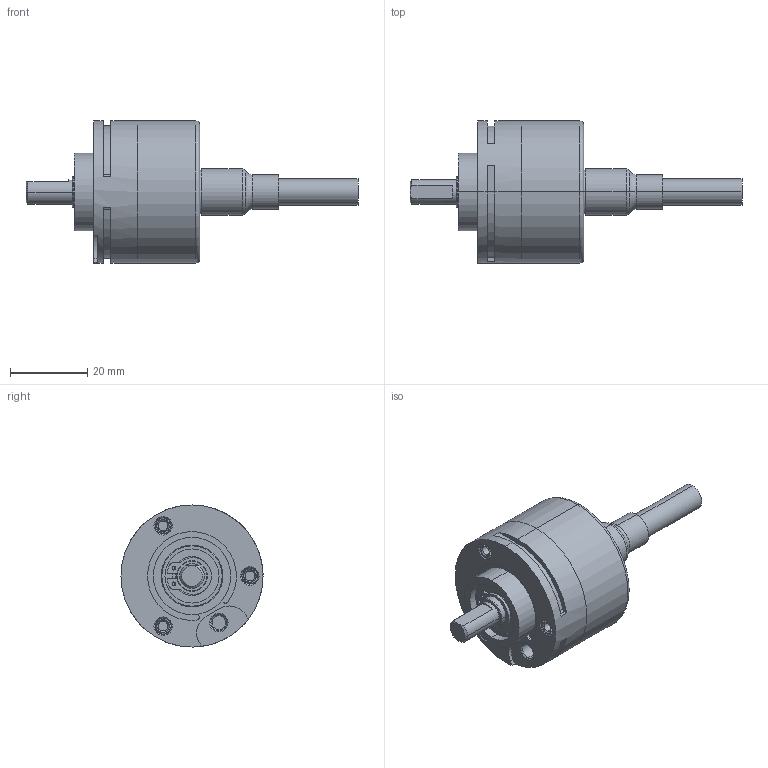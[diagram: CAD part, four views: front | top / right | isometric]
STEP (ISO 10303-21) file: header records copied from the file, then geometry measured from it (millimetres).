
FILE_DESCRIPTION (( 'STEP AP214' ), '1' );
FILE_NAME ('3700.14X1.XXXX.STEP', '2008-11-21T13:41:12', ( 'admin' ), ( 'Fritz Kübler GmbH' ), 'SwSTEP 2.0', 'SolidWorks 2008', '' );
FILE_SCHEMA (( 'AUTOMOTIVE_DESIGN' ));
Length unit declared in the file: millimetre
Products named in the file (1): 3700.14X1.XXXX
Bounding box: 86 x 36.8 x 36.8 mm (x, y, z)
Volume: 15684.9 mm3; surface area: 17892.8 mm2
Topology: 10 solids, 11 shells, 1110 faces, 2966 edges, 1863 vertices
Faces by surface type: plane 351, cylinder 348, bspline 171, torus 120, cone 79, sphere 41
Entity records: 51778 total; most frequent: CARTESIAN_POINT 14598, ORIENTED_EDGE 5806, DIRECTION 4861, EDGE_CURVE 2903, AXIS2_PLACEMENT_3D 2155, VERTEX_POINT 1829, CIRCLE 1215, EDGE_LOOP 1160
